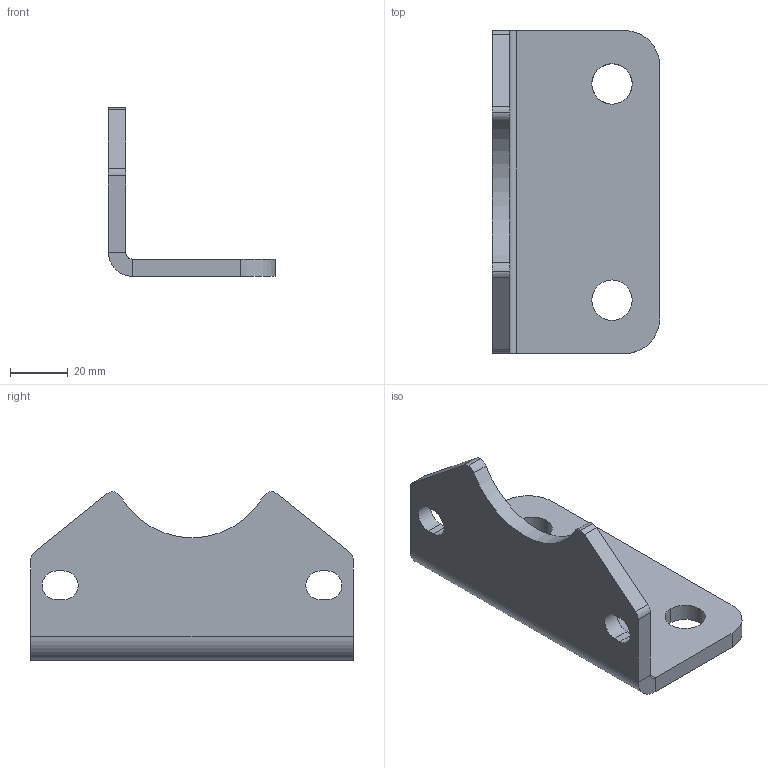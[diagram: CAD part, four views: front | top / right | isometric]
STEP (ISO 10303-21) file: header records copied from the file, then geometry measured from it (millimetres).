
FILE_DESCRIPTION(('CATIA V5 STEP Exchange'),'2;1');
FILE_NAME('D:\stp file for catalog\BAST-LB\LB 100.stp','2018-06-13T05:27:16+00:00',('none'),('none'),'CATIA Version 5-6 Release 2016','CATIA V5 STEP AP203','none');
FILE_SCHEMA(('CONFIG_CONTROL_DESIGN'));
Length unit declared in the file: millimetre
Products named in the file (1): LB-100-00
Bounding box: 58 x 112 x 58.5 mm (x, y, z)
Volume: 62129.2 mm3; surface area: 24150.3 mm2
Topology: 1 solids, 1 shells, 40 faces, 106 edges, 68 vertices
Faces by surface type: cylinder 23, plane 17
Entity records: 1262 total; most frequent: CARTESIAN_POINT 246, ORIENTED_EDGE 212, DIRECTION 170, EDGE_CURVE 106, AXIS2_PLACEMENT_3D 76, VERTEX_POINT 68, VECTOR 59, LINE 59
